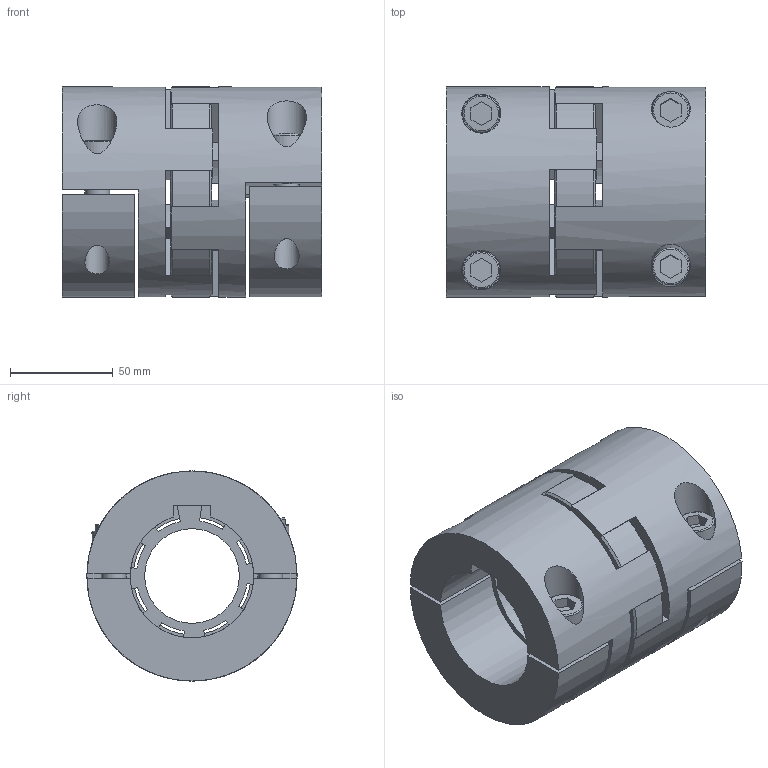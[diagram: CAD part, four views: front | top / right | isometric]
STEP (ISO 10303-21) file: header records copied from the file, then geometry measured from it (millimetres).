
FILE_DESCRIPTION(/* description */ ('STEP AP214'),/* implementation_level */ '2;1');
FILE_NAME(/* name */ 'C:\Diequa Files\DieQua Coupling\ECS\STP\ECS.450.ABC.#.#.stp',/* time_stamp */ '2018-12-07T11:54:03-06:00',/* author */ ('DiequaCAD'),/* organization */ (''),/* preprocessor_version */ 'ST-DEVELOPER v17.2',/* originating_system */ 'Autodesk Inventor 2019',/* authorisation */ ' ');
FILE_SCHEMA (('AUTOMOTIVE_DESIGN { 1 0 10303 214 3 1 1 }'));
Length unit declared in the file: millimetre
Products named in the file (4): EKH_450_A_60_PFN_60_PFN_48; 2018_11_29__15-58-17-557; 2018_11_29__15-58-17-557_1; 2018_11_29__15-58-17-557_2
Assembly tree (3 placements, depth 2):
  EKH_450_A_60_PFN_60_PFN_48
    2018_11_29__15-58-17-557
    2018_11_29__15-58-17-557_1
    2018_11_29__15-58-17-557_2
Bounding box: 126 x 102 x 102 mm (x, y, z)
Volume: 628120 mm3; surface area: 136507.6 mm2
Topology: 3 solids, 3 shells, 197 faces, 539 edges, 368 vertices
Faces by surface type: plane 124, cylinder 53, cone 16, torus 4
Full cylindrical faces by diameter (mm): 12 x8, 12.5 x4, 18 x4, 19 x4, 46 x1, 102 x2
Entity records: 6783 total; most frequent: CARTESIAN_POINT 1415, DIRECTION 1129, ORIENTED_EDGE 1078, EDGE_CURVE 539, AXIS2_PLACEMENT_3D 402, VERTEX_POINT 368, LINE 325, VECTOR 325
